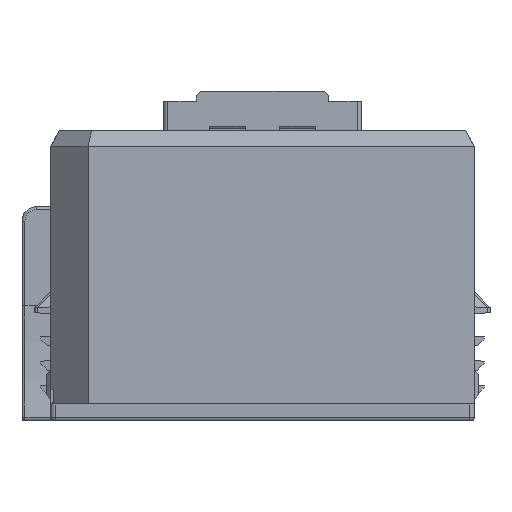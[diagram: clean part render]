
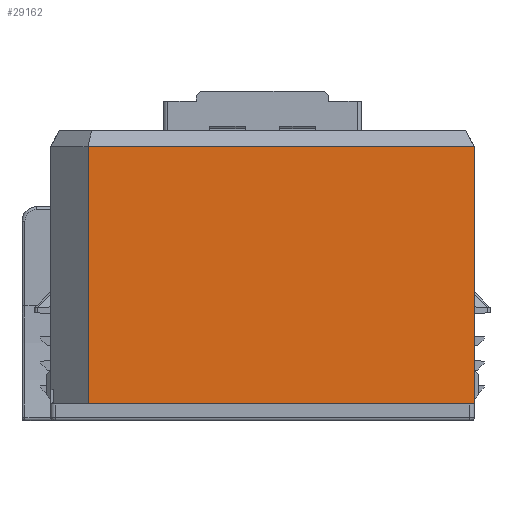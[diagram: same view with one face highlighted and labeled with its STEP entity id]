
A CAD part, front view. The second image highlights one B-rep face of the part: STEP entity #29162.
In plain terms, the highlighted planar face has unit normal (0, -1, 0).
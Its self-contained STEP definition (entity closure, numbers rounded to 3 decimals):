
#684=DIRECTION('',(0.,0.,1.));
#685=VECTOR('',#684,17.906);
#686=CARTESIAN_POINT('',(14.75,-26.,1.194));
#687=LINE('',#686,#685);
#1773=DIRECTION('',(-1.,0.,0.));
#1774=VECTOR('',#1773,26.9);
#1775=CARTESIAN_POINT('',(14.75,-26.,1.194));
#1776=LINE('',#1775,#1774);
#1777=DIRECTION('',(1.,0.,0.));
#1778=VECTOR('',#1777,26.9);
#1779=CARTESIAN_POINT('',(-12.15,-26.,19.1));
#1780=LINE('',#1779,#1778);
#18419=DIRECTION('',(0.,0.,-1.));
#18420=VECTOR('',#18419,17.906);
#18421=CARTESIAN_POINT('',(-12.15,-26.,19.1));
#18422=LINE('',#18421,#18420);
#20088=CARTESIAN_POINT('',(-12.15,-26.,19.1));
#20089=CARTESIAN_POINT('',(14.75,-26.,19.1));
#20090=VERTEX_POINT('',#20088);
#20091=VERTEX_POINT('',#20089);
#20759=CARTESIAN_POINT('',(14.75,-26.,1.194));
#20760=VERTEX_POINT('',#20759);
#25158=CARTESIAN_POINT('',(-12.15,-26.,1.194));
#25160=VERTEX_POINT('',#25158);
#29148=CARTESIAN_POINT('',(-14.75,-26.,0.));
#29149=DIRECTION('',(0.,-1.,0.));
#29150=DIRECTION('',(1.,0.,0.));
#29151=AXIS2_PLACEMENT_3D('',#29148,#29149,#29150);
#29152=PLANE('',#29151);
#29153=ORIENTED_EDGE('',*,*,#27258,.F.);
#29155=ORIENTED_EDGE('',*,*,#29154,.T.);
#29157=ORIENTED_EDGE('',*,*,#29156,.F.);
#29159=ORIENTED_EDGE('',*,*,#29158,.T.);
#29160=EDGE_LOOP('',(#29153,#29155,#29157,#29159));
#29161=FACE_OUTER_BOUND('',#29160,.F.);
#29162=ADVANCED_FACE('',(#29161),#29152,.T.);
#27258=EDGE_CURVE('',#20760,#20091,#687,.T.);
#29154=EDGE_CURVE('',#20760,#25160,#1776,.T.);
#29156=EDGE_CURVE('',#20090,#25160,#18422,.T.);
#29158=EDGE_CURVE('',#20090,#20091,#1780,.T.);
